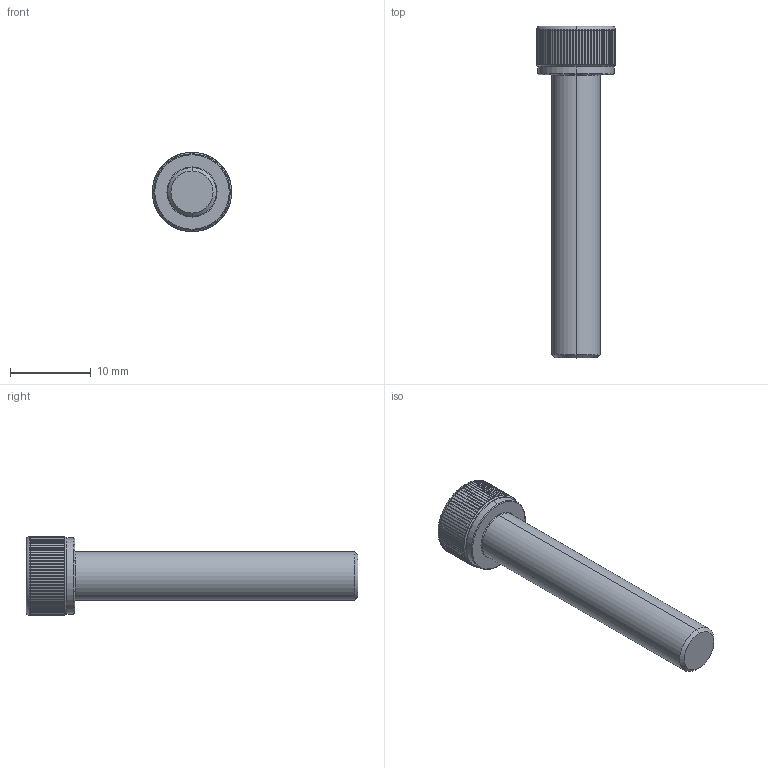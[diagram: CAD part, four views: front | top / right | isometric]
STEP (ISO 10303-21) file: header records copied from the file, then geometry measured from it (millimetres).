
FILE_DESCRIPTION (( 'STEP AP203' ), '1' );
FILE_NAME ('LGDT-304-M6x35.STEP', '2026-08-10T04:45:01', ( '' ), ( '' ), 'SwSTEP 2.0', 'SolidWorks 2020', '' );
FILE_SCHEMA (( 'CONFIG_CONTROL_DESIGN' ));
Length unit declared in the file: millimetre
Products named in the file (1): LGDT-304-M6x35
Bounding box: 9.8 x 41 x 9.8 mm (x, y, z)
Volume: 1356.3 mm3; surface area: 1037.4 mm2
Topology: 1 solids, 1 shells, 204 faces, 576 edges, 376 vertices
Faces by surface type: cylinder 175, cone 11, plane 10, torus 8
Entity records: 8367 total; most frequent: CARTESIAN_POINT 3208, ORIENTED_EDGE 1152, DIRECTION 988, EDGE_CURVE 576, AXIS2_PLACEMENT_3D 398, VERTEX_POINT 376, EDGE_LOOP 206, FACE_OUTER_BOUND 204
